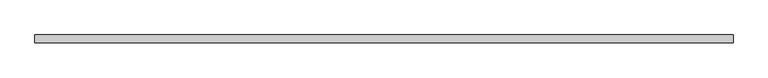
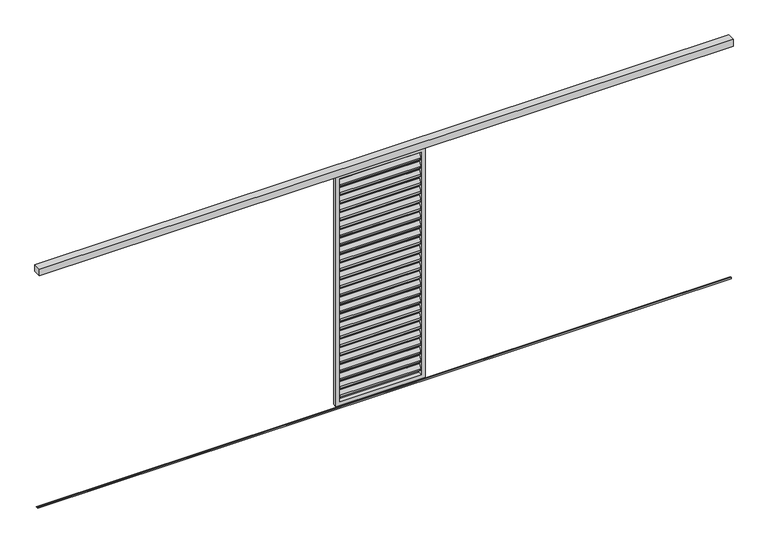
"""IFC4 building model written with IfcOpenShell, lengths in millimetres: proxy geometry, Renson_Amani_Loggia_Paro_Aluminium_Sliding : Renson_Amani_Loggia_Paro_Aluminium_Sliding."""

from ifc_helpers import new_model, si_unit, point, frame, frame_2d, origin, place, context, project, spatial, polyline, circle_curve, trimmed, segment, composite_curve, outline, extrude, source, transform, mapped, element, save


def generic_models_aa7866da(model_context):
    return source(origin(), model_context, "Body", "SweptSolid", [
        extrude(outline(polyline([(3550.0, 46.0), (3550.0, -34.0), (-3450.0, -34.0), (-3450.0, 46.0), (3550.0, 46.0)])), frame((0.0, 0.0, 2500.0), z_axis=(0.0, 0.0, 1.0), x_axis=(1.0, 0.0, 0.0)), (0.0, 0.0, 1.0), 70.0),
        extrude(outline(composite_curve([segment(trimmed(circle_curve(frame_2d((12.6675921, 2432.6587719)), 3.0), [point((10.1515804, 2434.292689))], [point((15.6675921, 2432.6587719))], False, "CARTESIAN"), True, "CONTINUOUS"), segment(polyline([(15.6675921, 2432.6587719), (15.6675921, 2414.2979873)]), True, "CONTINUOUS"), segment(trimmed(circle_curve(frame_2d((12.6675921, 2414.2979873)), 3.0), [point((15.6675921, 2414.2979873))], [point((15.1836038, 2412.6640702))], False, "CARTESIAN"), True, "CONTINUOUS"), segment(polyline([(15.1836038, 2412.6640702), (-8.8163962, 2375.707311)]), True, "CONTINUOUS"), segment(trimmed(circle_curve(frame_2d((-11.3324079, 2377.3412281)), 3.0), [point((-8.8163962, 2375.707311))], [point((-14.3324079, 2377.3412281))], False, "CARTESIAN"), True, "CONTINUOUS"), segment(polyline([(-14.3324079, 2377.3412281), (-14.3324079, 2396.5906532), (10.1515804, 2434.292689)]), True, "CONTINUOUS")], self_intersect=False)), frame((-410.0, 0.0, 0.0), z_axis=(1.0, 0.0, 0.0), x_axis=(0.0, 1.0, 0.0)), (0.0, 0.0, 1.0), 820.0),
        extrude(outline(composite_curve([segment(trimmed(circle_curve(frame_2d((12.6675921, 2342.6587719)), 3.0), [point((10.1515804, 2344.292689))], [point((15.6675921, 2342.6587719))], False, "CARTESIAN"), True, "CONTINUOUS"), segment(polyline([(15.6675921, 2342.6587719), (15.6675921, 2324.2979873)]), True, "CONTINUOUS"), segment(trimmed(circle_curve(frame_2d((12.6675921, 2324.2979873)), 3.0), [point((15.6675921, 2324.2979873))], [point((15.1836038, 2322.6640702))], False, "CARTESIAN"), True, "CONTINUOUS"), segment(polyline([(15.1836038, 2322.6640702), (-8.8163962, 2285.707311)]), True, "CONTINUOUS"), segment(trimmed(circle_curve(frame_2d((-11.3324079, 2287.3412281)), 3.0), [point((-8.8163962, 2285.707311))], [point((-14.3324079, 2287.3412281))], False, "CARTESIAN"), True, "CONTINUOUS"), segment(polyline([(-14.3324079, 2287.3412281), (-14.3324079, 2306.5906532), (10.1515804, 2344.292689)]), True, "CONTINUOUS")], self_intersect=False)), frame((-410.0, 0.0, 0.0), z_axis=(1.0, 0.0, 0.0), x_axis=(0.0, 1.0, 0.0)), (0.0, 0.0, 1.0), 820.0),
        extrude(outline(composite_curve([segment(trimmed(circle_curve(frame_2d((12.6675921, 2252.6587719)), 3.0), [point((10.1515804, 2254.292689))], [point((15.6675921, 2252.6587719))], False, "CARTESIAN"), True, "CONTINUOUS"), segment(polyline([(15.6675921, 2252.6587719), (15.6675921, 2234.2979873)]), True, "CONTINUOUS"), segment(trimmed(circle_curve(frame_2d((12.6675921, 2234.2979873)), 3.0), [point((15.6675921, 2234.2979873))], [point((15.1836038, 2232.6640702))], False, "CARTESIAN"), True, "CONTINUOUS"), segment(polyline([(15.1836038, 2232.6640702), (-8.8163962, 2195.707311)]), True, "CONTINUOUS"), segment(trimmed(circle_curve(frame_2d((-11.3324079, 2197.3412281)), 3.0), [point((-8.8163962, 2195.707311))], [point((-14.3324079, 2197.3412281))], False, "CARTESIAN"), True, "CONTINUOUS"), segment(polyline([(-14.3324079, 2197.3412281), (-14.3324079, 2216.5906532), (10.1515804, 2254.292689)]), True, "CONTINUOUS")], self_intersect=False)), frame((-410.0, 0.0, 0.0), z_axis=(1.0, 0.0, 0.0), x_axis=(0.0, 1.0, 0.0)), (0.0, 0.0, 1.0), 820.0),
        extrude(outline(composite_curve([segment(trimmed(circle_curve(frame_2d((12.6675921, 2162.6587719)), 3.0), [point((10.1515804, 2164.292689))], [point((15.6675921, 2162.6587719))], False, "CARTESIAN"), True, "CONTINUOUS"), segment(polyline([(15.6675921, 2162.6587719), (15.6675921, 2144.2979873)]), True, "CONTINUOUS"), segment(trimmed(circle_curve(frame_2d((12.6675921, 2144.2979873)), 3.0), [point((15.6675921, 2144.2979873))], [point((15.1836038, 2142.6640702))], False, "CARTESIAN"), True, "CONTINUOUS"), segment(polyline([(15.1836038, 2142.6640702), (-8.8163962, 2105.707311)]), True, "CONTINUOUS"), segment(trimmed(circle_curve(frame_2d((-11.3324079, 2107.3412281)), 3.0), [point((-8.8163962, 2105.707311))], [point((-14.3324079, 2107.3412281))], False, "CARTESIAN"), True, "CONTINUOUS"), segment(polyline([(-14.3324079, 2107.3412281), (-14.3324079, 2126.5906532), (10.1515804, 2164.292689)]), True, "CONTINUOUS")], self_intersect=False)), frame((-410.0, 0.0, 0.0), z_axis=(1.0, 0.0, 0.0), x_axis=(0.0, 1.0, 0.0)), (0.0, 0.0, 1.0), 820.0),
        extrude(outline(composite_curve([segment(trimmed(circle_curve(frame_2d((12.6675921, 2072.6587719)), 3.0), [point((10.1515804, 2074.292689))], [point((15.6675921, 2072.6587719))], False, "CARTESIAN"), True, "CONTINUOUS"), segment(polyline([(15.6675921, 2072.6587719), (15.6675921, 2054.2979873)]), True, "CONTINUOUS"), segment(trimmed(circle_curve(frame_2d((12.6675921, 2054.2979873)), 3.0), [point((15.6675921, 2054.2979873))], [point((15.1836038, 2052.6640702))], False, "CARTESIAN"), True, "CONTINUOUS"), segment(polyline([(15.1836038, 2052.6640702), (-8.8163962, 2015.707311)]), True, "CONTINUOUS"), segment(trimmed(circle_curve(frame_2d((-11.3324079, 2017.3412281)), 3.0), [point((-8.8163962, 2015.707311))], [point((-14.3324079, 2017.3412281))], False, "CARTESIAN"), True, "CONTINUOUS"), segment(polyline([(-14.3324079, 2017.3412281), (-14.3324079, 2036.5906532), (10.1515804, 2074.292689)]), True, "CONTINUOUS")], self_intersect=False)), frame((-410.0, 0.0, 0.0), z_axis=(1.0, 0.0, 0.0), x_axis=(0.0, 1.0, 0.0)), (0.0, 0.0, 1.0), 820.0),
        extrude(outline(composite_curve([segment(trimmed(circle_curve(frame_2d((12.6675921, 1982.6587719)), 3.0), [point((10.1515804, 1984.292689))], [point((15.6675921, 1982.6587719))], False, "CARTESIAN"), True, "CONTINUOUS"), segment(polyline([(15.6675921, 1982.6587719), (15.6675921, 1964.2979873)]), True, "CONTINUOUS"), segment(trimmed(circle_curve(frame_2d((12.6675921, 1964.2979873)), 3.0), [point((15.6675921, 1964.2979873))], [point((15.1836038, 1962.6640702))], False, "CARTESIAN"), True, "CONTINUOUS"), segment(polyline([(15.1836038, 1962.6640702), (-8.8163962, 1925.707311)]), True, "CONTINUOUS"), segment(trimmed(circle_curve(frame_2d((-11.3324079, 1927.3412281)), 3.0), [point((-8.8163962, 1925.707311))], [point((-14.3324079, 1927.3412281))], False, "CARTESIAN"), True, "CONTINUOUS"), segment(polyline([(-14.3324079, 1927.3412281), (-14.3324079, 1946.5906532), (10.1515804, 1984.292689)]), True, "CONTINUOUS")], self_intersect=False)), frame((-410.0, 0.0, 0.0), z_axis=(1.0, 0.0, 0.0), x_axis=(0.0, 1.0, 0.0)), (0.0, 0.0, 1.0), 820.0),
        extrude(outline(composite_curve([segment(trimmed(circle_curve(frame_2d((12.6675921, 1892.6587719)), 3.0), [point((10.1515804, 1894.292689))], [point((15.6675921, 1892.6587719))], False, "CARTESIAN"), True, "CONTINUOUS"), segment(polyline([(15.6675921, 1892.6587719), (15.6675921, 1874.2979873)]), True, "CONTINUOUS"), segment(trimmed(circle_curve(frame_2d((12.6675921, 1874.2979873)), 3.0), [point((15.6675921, 1874.2979873))], [point((15.1836038, 1872.6640702))], False, "CARTESIAN"), True, "CONTINUOUS"), segment(polyline([(15.1836038, 1872.6640702), (-8.8163962, 1835.707311)]), True, "CONTINUOUS"), segment(trimmed(circle_curve(frame_2d((-11.3324079, 1837.3412281)), 3.0), [point((-8.8163962, 1835.707311))], [point((-14.3324079, 1837.3412281))], False, "CARTESIAN"), True, "CONTINUOUS"), segment(polyline([(-14.3324079, 1837.3412281), (-14.3324079, 1856.5906532), (10.1515804, 1894.292689)]), True, "CONTINUOUS")], self_intersect=False)), frame((-410.0, 0.0, 0.0), z_axis=(1.0, 0.0, 0.0), x_axis=(0.0, 1.0, 0.0)), (0.0, 0.0, 1.0), 820.0),
        extrude(outline(composite_curve([segment(trimmed(circle_curve(frame_2d((12.6675921, 1802.6587719)), 3.0), [point((10.1515804, 1804.292689))], [point((15.6675921, 1802.6587719))], False, "CARTESIAN"), True, "CONTINUOUS"), segment(polyline([(15.6675921, 1802.6587719), (15.6675921, 1784.2979873)]), True, "CONTINUOUS"), segment(trimmed(circle_curve(frame_2d((12.6675921, 1784.2979873)), 3.0), [point((15.6675921, 1784.2979873))], [point((15.1836038, 1782.6640702))], False, "CARTESIAN"), True, "CONTINUOUS"), segment(polyline([(15.1836038, 1782.6640702), (-8.8163962, 1745.707311)]), True, "CONTINUOUS"), segment(trimmed(circle_curve(frame_2d((-11.3324079, 1747.3412281)), 3.0), [point((-8.8163962, 1745.707311))], [point((-14.3324079, 1747.3412281))], False, "CARTESIAN"), True, "CONTINUOUS"), segment(polyline([(-14.3324079, 1747.3412281), (-14.3324079, 1766.5906532), (10.1515804, 1804.292689)]), True, "CONTINUOUS")], self_intersect=False)), frame((-410.0, 0.0, 0.0), z_axis=(1.0, 0.0, 0.0), x_axis=(0.0, 1.0, 0.0)), (0.0, 0.0, 1.0), 820.0),
        extrude(outline(composite_curve([segment(trimmed(circle_curve(frame_2d((12.6675921, 1712.6587719)), 3.0), [point((10.1515804, 1714.292689))], [point((15.6675921, 1712.6587719))], False, "CARTESIAN"), True, "CONTINUOUS"), segment(polyline([(15.6675921, 1712.6587719), (15.6675921, 1694.2979873)]), True, "CONTINUOUS"), segment(trimmed(circle_curve(frame_2d((12.6675921, 1694.2979873)), 3.0), [point((15.6675921, 1694.2979873))], [point((15.1836038, 1692.6640702))], False, "CARTESIAN"), True, "CONTINUOUS"), segment(polyline([(15.1836038, 1692.6640702), (-8.8163962, 1655.707311)]), True, "CONTINUOUS"), segment(trimmed(circle_curve(frame_2d((-11.3324079, 1657.3412281)), 3.0), [point((-8.8163962, 1655.707311))], [point((-14.3324079, 1657.3412281))], False, "CARTESIAN"), True, "CONTINUOUS"), segment(polyline([(-14.3324079, 1657.3412281), (-14.3324079, 1676.5906532), (10.1515804, 1714.292689)]), True, "CONTINUOUS")], self_intersect=False)), frame((-410.0, 0.0, 0.0), z_axis=(1.0, 0.0, 0.0), x_axis=(0.0, 1.0, 0.0)), (0.0, 0.0, 1.0), 820.0),
        extrude(outline(composite_curve([segment(trimmed(circle_curve(frame_2d((12.6675921, 1622.6587719)), 3.0), [point((10.1515804, 1624.292689))], [point((15.6675921, 1622.6587719))], False, "CARTESIAN"), True, "CONTINUOUS"), segment(polyline([(15.6675921, 1622.6587719), (15.6675921, 1604.2979873)]), True, "CONTINUOUS"), segment(trimmed(circle_curve(frame_2d((12.6675921, 1604.2979873)), 3.0), [point((15.6675921, 1604.2979873))], [point((15.1836038, 1602.6640702))], False, "CARTESIAN"), True, "CONTINUOUS"), segment(polyline([(15.1836038, 1602.6640702), (-8.8163962, 1565.707311)]), True, "CONTINUOUS"), segment(trimmed(circle_curve(frame_2d((-11.3324079, 1567.3412281)), 3.0), [point((-8.8163962, 1565.707311))], [point((-14.3324079, 1567.3412281))], False, "CARTESIAN"), True, "CONTINUOUS"), segment(polyline([(-14.3324079, 1567.3412281), (-14.3324079, 1586.5906532), (10.1515804, 1624.292689)]), True, "CONTINUOUS")], self_intersect=False)), frame((-410.0, 0.0, 0.0), z_axis=(1.0, 0.0, 0.0), x_axis=(0.0, 1.0, 0.0)), (0.0, 0.0, 1.0), 820.0),
        extrude(outline(composite_curve([segment(trimmed(circle_curve(frame_2d((12.6675921, 1532.6587719)), 3.0), [point((10.1515804, 1534.292689))], [point((15.6675921, 1532.6587719))], False, "CARTESIAN"), True, "CONTINUOUS"), segment(polyline([(15.6675921, 1532.6587719), (15.6675921, 1514.2979873)]), True, "CONTINUOUS"), segment(trimmed(circle_curve(frame_2d((12.6675921, 1514.2979873)), 3.0), [point((15.6675921, 1514.2979873))], [point((15.1836038, 1512.6640702))], False, "CARTESIAN"), True, "CONTINUOUS"), segment(polyline([(15.1836038, 1512.6640702), (-8.8163962, 1475.707311)]), True, "CONTINUOUS"), segment(trimmed(circle_curve(frame_2d((-11.3324079, 1477.3412281)), 3.0), [point((-8.8163962, 1475.707311))], [point((-14.3324079, 1477.3412281))], False, "CARTESIAN"), True, "CONTINUOUS"), segment(polyline([(-14.3324079, 1477.3412281), (-14.3324079, 1496.5906532), (10.1515804, 1534.292689)]), True, "CONTINUOUS")], self_intersect=False)), frame((-410.0, 0.0, 0.0), z_axis=(1.0, 0.0, 0.0), x_axis=(0.0, 1.0, 0.0)), (0.0, 0.0, 1.0), 820.0),
        extrude(outline(composite_curve([segment(trimmed(circle_curve(frame_2d((12.6675921, 1442.6587719)), 3.0), [point((10.1515804, 1444.292689))], [point((15.6675921, 1442.6587719))], False, "CARTESIAN"), True, "CONTINUOUS"), segment(polyline([(15.6675921, 1442.6587719), (15.6675921, 1424.2979873)]), True, "CONTINUOUS"), segment(trimmed(circle_curve(frame_2d((12.6675921, 1424.2979873)), 3.0), [point((15.6675921, 1424.2979873))], [point((15.1836038, 1422.6640702))], False, "CARTESIAN"), True, "CONTINUOUS"), segment(polyline([(15.1836038, 1422.6640702), (-8.8163962, 1385.707311)]), True, "CONTINUOUS"), segment(trimmed(circle_curve(frame_2d((-11.3324079, 1387.3412281)), 3.0), [point((-8.8163962, 1385.707311))], [point((-14.3324079, 1387.3412281))], False, "CARTESIAN"), True, "CONTINUOUS"), segment(polyline([(-14.3324079, 1387.3412281), (-14.3324079, 1406.5906532), (10.1515804, 1444.292689)]), True, "CONTINUOUS")], self_intersect=False)), frame((-410.0, 0.0, 0.0), z_axis=(1.0, 0.0, 0.0), x_axis=(0.0, 1.0, 0.0)), (0.0, 0.0, 1.0), 820.0),
        extrude(outline(composite_curve([segment(trimmed(circle_curve(frame_2d((12.6675921, 1352.6587719)), 3.0), [point((10.1515804, 1354.292689))], [point((15.6675921, 1352.6587719))], False, "CARTESIAN"), True, "CONTINUOUS"), segment(polyline([(15.6675921, 1352.6587719), (15.6675921, 1334.2979873)]), True, "CONTINUOUS"), segment(trimmed(circle_curve(frame_2d((12.6675921, 1334.2979873)), 3.0), [point((15.6675921, 1334.2979873))], [point((15.1836038, 1332.6640702))], False, "CARTESIAN"), True, "CONTINUOUS"), segment(polyline([(15.1836038, 1332.6640702), (-8.8163962, 1295.707311)]), True, "CONTINUOUS"), segment(trimmed(circle_curve(frame_2d((-11.3324079, 1297.3412281)), 3.0), [point((-8.8163962, 1295.707311))], [point((-14.3324079, 1297.3412281))], False, "CARTESIAN"), True, "CONTINUOUS"), segment(polyline([(-14.3324079, 1297.3412281), (-14.3324079, 1316.5906532), (10.1515804, 1354.292689)]), True, "CONTINUOUS")], self_intersect=False)), frame((-410.0, 0.0, 0.0), z_axis=(1.0, 0.0, 0.0), x_axis=(0.0, 1.0, 0.0)), (0.0, 0.0, 1.0), 820.0),
        extrude(outline(composite_curve([segment(trimmed(circle_curve(frame_2d((12.6675921, 1262.6587719)), 3.0), [point((10.1515804, 1264.292689))], [point((15.6675921, 1262.6587719))], False, "CARTESIAN"), True, "CONTINUOUS"), segment(polyline([(15.6675921, 1262.6587719), (15.6675921, 1244.2979873)]), True, "CONTINUOUS"), segment(trimmed(circle_curve(frame_2d((12.6675921, 1244.2979873)), 3.0), [point((15.6675921, 1244.2979873))], [point((15.1836038, 1242.6640702))], False, "CARTESIAN"), True, "CONTINUOUS"), segment(polyline([(15.1836038, 1242.6640702), (-8.8163962, 1205.707311)]), True, "CONTINUOUS"), segment(trimmed(circle_curve(frame_2d((-11.3324079, 1207.3412281)), 3.0), [point((-8.8163962, 1205.707311))], [point((-14.3324079, 1207.3412281))], False, "CARTESIAN"), True, "CONTINUOUS"), segment(polyline([(-14.3324079, 1207.3412281), (-14.3324079, 1226.5906532), (10.1515804, 1264.292689)]), True, "CONTINUOUS")], self_intersect=False)), frame((-410.0, 0.0, 0.0), z_axis=(1.0, 0.0, 0.0), x_axis=(0.0, 1.0, 0.0)), (0.0, 0.0, 1.0), 820.0),
        extrude(outline(composite_curve([segment(trimmed(circle_curve(frame_2d((12.6675921, 1172.6587719)), 3.0), [point((10.1515804, 1174.292689))], [point((15.6675921, 1172.6587719))], False, "CARTESIAN"), True, "CONTINUOUS"), segment(polyline([(15.6675921, 1172.6587719), (15.6675921, 1154.2979873)]), True, "CONTINUOUS"), segment(trimmed(circle_curve(frame_2d((12.6675921, 1154.2979873)), 3.0), [point((15.6675921, 1154.2979873))], [point((15.1836038, 1152.6640702))], False, "CARTESIAN"), True, "CONTINUOUS"), segment(polyline([(15.1836038, 1152.6640702), (-8.8163962, 1115.707311)]), True, "CONTINUOUS"), segment(trimmed(circle_curve(frame_2d((-11.3324079, 1117.3412281)), 3.0), [point((-8.8163962, 1115.707311))], [point((-14.3324079, 1117.3412281))], False, "CARTESIAN"), True, "CONTINUOUS"), segment(polyline([(-14.3324079, 1117.3412281), (-14.3324079, 1136.5906532), (10.1515804, 1174.292689)]), True, "CONTINUOUS")], self_intersect=False)), frame((-410.0, 0.0, 0.0), z_axis=(1.0, 0.0, 0.0), x_axis=(0.0, 1.0, 0.0)), (0.0, 0.0, 1.0), 820.0),
        extrude(outline(composite_curve([segment(trimmed(circle_curve(frame_2d((12.6675921, 1082.6587719)), 3.0), [point((10.1515804, 1084.292689))], [point((15.6675921, 1082.6587719))], False, "CARTESIAN"), True, "CONTINUOUS"), segment(polyline([(15.6675921, 1082.6587719), (15.6675921, 1064.2979873)]), True, "CONTINUOUS"), segment(trimmed(circle_curve(frame_2d((12.6675921, 1064.2979873)), 3.0), [point((15.6675921, 1064.2979873))], [point((15.1836038, 1062.6640702))], False, "CARTESIAN"), True, "CONTINUOUS"), segment(polyline([(15.1836038, 1062.6640702), (-8.8163962, 1025.707311)]), True, "CONTINUOUS"), segment(trimmed(circle_curve(frame_2d((-11.3324079, 1027.3412281)), 3.0), [point((-8.8163962, 1025.707311))], [point((-14.3324079, 1027.3412281))], False, "CARTESIAN"), True, "CONTINUOUS"), segment(polyline([(-14.3324079, 1027.3412281), (-14.3324079, 1046.5906532), (10.1515804, 1084.292689)]), True, "CONTINUOUS")], self_intersect=False)), frame((-410.0, 0.0, 0.0), z_axis=(1.0, 0.0, 0.0), x_axis=(0.0, 1.0, 0.0)), (0.0, 0.0, 1.0), 820.0),
        extrude(outline(composite_curve([segment(trimmed(circle_curve(frame_2d((12.6675921, 992.6587719)), 3.0), [point((10.1515804, 994.292689))], [point((15.6675921, 992.6587719))], False, "CARTESIAN"), True, "CONTINUOUS"), segment(polyline([(15.6675921, 992.6587719), (15.6675921, 974.2979873)]), True, "CONTINUOUS"), segment(trimmed(circle_curve(frame_2d((12.6675921, 974.2979873)), 3.0), [point((15.6675921, 974.2979873))], [point((15.1836038, 972.6640702))], False, "CARTESIAN"), True, "CONTINUOUS"), segment(polyline([(15.1836038, 972.6640702), (-8.8163962, 935.707311)]), True, "CONTINUOUS"), segment(trimmed(circle_curve(frame_2d((-11.3324079, 937.3412281)), 3.0), [point((-8.8163962, 935.707311))], [point((-14.3324079, 937.3412281))], False, "CARTESIAN"), True, "CONTINUOUS"), segment(polyline([(-14.3324079, 937.3412281), (-14.3324079, 956.5906532), (10.1515804, 994.292689)]), True, "CONTINUOUS")], self_intersect=False)), frame((-410.0, 0.0, 0.0), z_axis=(1.0, 0.0, 0.0), x_axis=(0.0, 1.0, 0.0)), (0.0, 0.0, 1.0), 820.0),
        extrude(outline(composite_curve([segment(trimmed(circle_curve(frame_2d((12.6675921, 902.6587719)), 3.0), [point((10.1515804, 904.292689))], [point((15.6675921, 902.6587719))], False, "CARTESIAN"), True, "CONTINUOUS"), segment(polyline([(15.6675921, 902.6587719), (15.6675921, 884.2979873)]), True, "CONTINUOUS"), segment(trimmed(circle_curve(frame_2d((12.6675921, 884.2979873)), 3.0), [point((15.6675921, 884.2979873))], [point((15.1836038, 882.6640702))], False, "CARTESIAN"), True, "CONTINUOUS"), segment(polyline([(15.1836038, 882.6640702), (-8.8163962, 845.707311)]), True, "CONTINUOUS"), segment(trimmed(circle_curve(frame_2d((-11.3324079, 847.3412281)), 3.0), [point((-8.8163962, 845.707311))], [point((-14.3324079, 847.3412281))], False, "CARTESIAN"), True, "CONTINUOUS"), segment(polyline([(-14.3324079, 847.3412281), (-14.3324079, 866.5906532), (10.1515804, 904.292689)]), True, "CONTINUOUS")], self_intersect=False)), frame((-410.0, 0.0, 0.0), z_axis=(1.0, 0.0, 0.0), x_axis=(0.0, 1.0, 0.0)), (0.0, 0.0, 1.0), 820.0),
        extrude(outline(composite_curve([segment(trimmed(circle_curve(frame_2d((12.6675921, 812.6587719)), 3.0), [point((10.1515804, 814.292689))], [point((15.6675921, 812.6587719))], False, "CARTESIAN"), True, "CONTINUOUS"), segment(polyline([(15.6675921, 812.6587719), (15.6675921, 794.2979873)]), True, "CONTINUOUS"), segment(trimmed(circle_curve(frame_2d((12.6675921, 794.2979873)), 3.0), [point((15.6675921, 794.2979873))], [point((15.1836038, 792.6640702))], False, "CARTESIAN"), True, "CONTINUOUS"), segment(polyline([(15.1836038, 792.6640702), (-8.8163962, 755.707311)]), True, "CONTINUOUS"), segment(trimmed(circle_curve(frame_2d((-11.3324079, 757.3412281)), 3.0), [point((-8.8163962, 755.707311))], [point((-14.3324079, 757.3412281))], False, "CARTESIAN"), True, "CONTINUOUS"), segment(polyline([(-14.3324079, 757.3412281), (-14.3324079, 776.5906532), (10.1515804, 814.292689)]), True, "CONTINUOUS")], self_intersect=False)), frame((-410.0, 0.0, 0.0), z_axis=(1.0, 0.0, 0.0), x_axis=(0.0, 1.0, 0.0)), (0.0, 0.0, 1.0), 820.0),
        extrude(outline(composite_curve([segment(trimmed(circle_curve(frame_2d((12.6675921, 722.6587719)), 3.0), [point((10.1515804, 724.292689))], [point((15.6675921, 722.6587719))], False, "CARTESIAN"), True, "CONTINUOUS"), segment(polyline([(15.6675921, 722.6587719), (15.6675921, 704.2979873)]), True, "CONTINUOUS"), segment(trimmed(circle_curve(frame_2d((12.6675921, 704.2979873)), 3.0), [point((15.6675921, 704.2979873))], [point((15.1836038, 702.6640702))], False, "CARTESIAN"), True, "CONTINUOUS"), segment(polyline([(15.1836038, 702.6640702), (-8.8163962, 665.707311)]), True, "CONTINUOUS"), segment(trimmed(circle_curve(frame_2d((-11.3324079, 667.3412281)), 3.0), [point((-8.8163962, 665.707311))], [point((-14.3324079, 667.3412281))], False, "CARTESIAN"), True, "CONTINUOUS"), segment(polyline([(-14.3324079, 667.3412281), (-14.3324079, 686.5906532), (10.1515804, 724.292689)]), True, "CONTINUOUS")], self_intersect=False)), frame((-410.0, 0.0, 0.0), z_axis=(1.0, 0.0, 0.0), x_axis=(0.0, 1.0, 0.0)), (0.0, 0.0, 1.0), 820.0),
        extrude(outline(composite_curve([segment(trimmed(circle_curve(frame_2d((12.6675921, 632.6587719)), 3.0), [point((10.1515804, 634.292689))], [point((15.6675921, 632.6587719))], False, "CARTESIAN"), True, "CONTINUOUS"), segment(polyline([(15.6675921, 632.6587719), (15.6675921, 614.2979873)]), True, "CONTINUOUS"), segment(trimmed(circle_curve(frame_2d((12.6675921, 614.2979873)), 3.0), [point((15.6675921, 614.2979873))], [point((15.1836038, 612.6640702))], False, "CARTESIAN"), True, "CONTINUOUS"), segment(polyline([(15.1836038, 612.6640702), (-8.8163962, 575.707311)]), True, "CONTINUOUS"), segment(trimmed(circle_curve(frame_2d((-11.3324079, 577.3412281)), 3.0), [point((-8.8163962, 575.707311))], [point((-14.3324079, 577.3412281))], False, "CARTESIAN"), True, "CONTINUOUS"), segment(polyline([(-14.3324079, 577.3412281), (-14.3324079, 596.5906532), (10.1515804, 634.292689)]), True, "CONTINUOUS")], self_intersect=False)), frame((-410.0, 0.0, 0.0), z_axis=(1.0, 0.0, 0.0), x_axis=(0.0, 1.0, 0.0)), (0.0, 0.0, 1.0), 820.0),
        extrude(outline(composite_curve([segment(trimmed(circle_curve(frame_2d((12.6675921, 542.6587719)), 3.0), [point((10.1515804, 544.292689))], [point((15.6675921, 542.6587719))], False, "CARTESIAN"), True, "CONTINUOUS"), segment(polyline([(15.6675921, 542.6587719), (15.6675921, 524.2979873)]), True, "CONTINUOUS"), segment(trimmed(circle_curve(frame_2d((12.6675921, 524.2979873)), 3.0), [point((15.6675921, 524.2979873))], [point((15.1836038, 522.6640702))], False, "CARTESIAN"), True, "CONTINUOUS"), segment(polyline([(15.1836038, 522.6640702), (-8.8163962, 485.707311)]), True, "CONTINUOUS"), segment(trimmed(circle_curve(frame_2d((-11.3324079, 487.3412281)), 3.0), [point((-8.8163962, 485.707311))], [point((-14.3324079, 487.3412281))], False, "CARTESIAN"), True, "CONTINUOUS"), segment(polyline([(-14.3324079, 487.3412281), (-14.3324079, 506.5906532), (10.1515804, 544.292689)]), True, "CONTINUOUS")], self_intersect=False)), frame((-410.0, 0.0, 0.0), z_axis=(1.0, 0.0, 0.0), x_axis=(0.0, 1.0, 0.0)), (0.0, 0.0, 1.0), 820.0),
        extrude(outline(composite_curve([segment(trimmed(circle_curve(frame_2d((12.6675921, 452.6587719)), 3.0), [point((10.1515804, 454.292689))], [point((15.6675921, 452.6587719))], False, "CARTESIAN"), True, "CONTINUOUS"), segment(polyline([(15.6675921, 452.6587719), (15.6675921, 434.2979873)]), True, "CONTINUOUS"), segment(trimmed(circle_curve(frame_2d((12.6675921, 434.2979873)), 3.0), [point((15.6675921, 434.2979873))], [point((15.1836038, 432.6640702))], False, "CARTESIAN"), True, "CONTINUOUS"), segment(polyline([(15.1836038, 432.6640702), (-8.8163962, 395.707311)]), True, "CONTINUOUS"), segment(trimmed(circle_curve(frame_2d((-11.3324079, 397.3412281)), 3.0), [point((-8.8163962, 395.707311))], [point((-14.3324079, 397.3412281))], False, "CARTESIAN"), True, "CONTINUOUS"), segment(polyline([(-14.3324079, 397.3412281), (-14.3324079, 416.5906532), (10.1515804, 454.292689)]), True, "CONTINUOUS")], self_intersect=False)), frame((-410.0, 0.0, 0.0), z_axis=(1.0, 0.0, 0.0), x_axis=(0.0, 1.0, 0.0)), (0.0, 0.0, 1.0), 820.0),
        extrude(outline(composite_curve([segment(trimmed(circle_curve(frame_2d((12.6675921, 362.6587719)), 3.0), [point((10.1515804, 364.292689))], [point((15.6675921, 362.6587719))], False, "CARTESIAN"), True, "CONTINUOUS"), segment(polyline([(15.6675921, 362.6587719), (15.6675921, 344.2979873)]), True, "CONTINUOUS"), segment(trimmed(circle_curve(frame_2d((12.6675921, 344.2979873)), 3.0), [point((15.6675921, 344.2979873))], [point((15.1836038, 342.6640702))], False, "CARTESIAN"), True, "CONTINUOUS"), segment(polyline([(15.1836038, 342.6640702), (-8.8163962, 305.707311)]), True, "CONTINUOUS"), segment(trimmed(circle_curve(frame_2d((-11.3324079, 307.3412281)), 3.0), [point((-8.8163962, 305.707311))], [point((-14.3324079, 307.3412281))], False, "CARTESIAN"), True, "CONTINUOUS"), segment(polyline([(-14.3324079, 307.3412281), (-14.3324079, 326.5906532), (10.1515804, 364.292689)]), True, "CONTINUOUS")], self_intersect=False)), frame((-410.0, 0.0, 0.0), z_axis=(1.0, 0.0, 0.0), x_axis=(0.0, 1.0, 0.0)), (0.0, 0.0, 1.0), 820.0),
        extrude(outline(composite_curve([segment(trimmed(circle_curve(frame_2d((12.6675921, 272.6587719)), 3.0), [point((10.1515804, 274.292689))], [point((15.6675921, 272.6587719))], False, "CARTESIAN"), True, "CONTINUOUS"), segment(polyline([(15.6675921, 272.6587719), (15.6675921, 254.2979873)]), True, "CONTINUOUS"), segment(trimmed(circle_curve(frame_2d((12.6675921, 254.2979873)), 3.0), [point((15.6675921, 254.2979873))], [point((15.1836038, 252.6640702))], False, "CARTESIAN"), True, "CONTINUOUS"), segment(polyline([(15.1836038, 252.6640702), (-8.8163962, 215.707311)]), True, "CONTINUOUS"), segment(trimmed(circle_curve(frame_2d((-11.3324079, 217.3412281)), 3.0), [point((-8.8163962, 215.707311))], [point((-14.3324079, 217.3412281))], False, "CARTESIAN"), True, "CONTINUOUS"), segment(polyline([(-14.3324079, 217.3412281), (-14.3324079, 236.5906532), (10.1515804, 274.292689)]), True, "CONTINUOUS")], self_intersect=False)), frame((-410.0, 0.0, 0.0), z_axis=(1.0, 0.0, 0.0), x_axis=(0.0, 1.0, 0.0)), (0.0, 0.0, 1.0), 820.0),
        extrude(outline(composite_curve([segment(trimmed(circle_curve(frame_2d((12.6675921, 182.6587719)), 3.0), [point((10.1515804, 184.292689))], [point((15.6675921, 182.6587719))], False, "CARTESIAN"), True, "CONTINUOUS"), segment(polyline([(15.6675921, 182.6587719), (15.6675921, 164.2979873)]), True, "CONTINUOUS"), segment(trimmed(circle_curve(frame_2d((12.6675921, 164.2979873)), 3.0), [point((15.6675921, 164.2979873))], [point((15.1836038, 162.6640702))], False, "CARTESIAN"), True, "CONTINUOUS"), segment(polyline([(15.1836038, 162.6640702), (-8.8163962, 125.707311)]), True, "CONTINUOUS"), segment(trimmed(circle_curve(frame_2d((-11.3324079, 127.3412281)), 3.0), [point((-8.8163962, 125.707311))], [point((-14.3324079, 127.3412281))], False, "CARTESIAN"), True, "CONTINUOUS"), segment(polyline([(-14.3324079, 127.3412281), (-14.3324079, 146.5906532), (10.1515804, 184.292689)]), True, "CONTINUOUS")], self_intersect=False)), frame((-410.0, 0.0, 0.0), z_axis=(1.0, 0.0, 0.0), x_axis=(0.0, 1.0, 0.0)), (0.0, 0.0, 1.0), 820.0),
        extrude(outline(polyline([(-6.0, 15.0), (-3.0, 15.0), (-3.0, 3.0), (20.0, 3.0), (20.0, 0.0), (-6.0, 0.0), (-6.0, 15.0)])), frame((-3450.0, 0.0, 0.0), z_axis=(1.0, 0.0, 0.0), x_axis=(0.0, 1.0, 0.0)), (0.0, 0.0, 1.0), 7000.0),
        extrude(outline(polyline([(2500.0, -450.0), (45.0, -450.0), (45.0, 450.0), (2500.0, 450.0), (2500.0, -450.0)]), holes=[polyline([(2460.0, 410.0), (85.0, 410.0), (85.0, -410.0), (2460.0, -410.0), (2460.0, 410.0)])]), frame((0.0, -20.0, 0.0), z_axis=(0.0, 1.0, 0.0), x_axis=(0.0, 0.0, 1.0)), (0.0, 0.0, 1.0), 40.0),
    ])


if __name__ == "__main__":
    model = new_model("IFC4")
    model_context = context("Model", 3, world=origin())
    ifc_project = project(units=[si_unit("LENGTHUNIT", "METRE", prefix="MILLI")], contexts=[model_context])
    site = spatial("IfcSite", under=ifc_project)
    building = spatial("IfcBuilding", under=site)
    placement = place(None, origin())
    generic_models_shape = generic_models_aa7866da(model_context)
    element("IfcBuildingElementProxy", 1, Name="Renson_Amani_Loggia_Paro_Aluminium_Sliding : Renson_Amani_Loggia_Paro_Aluminium_Sliding", ObjectType="Renson_Amani_Loggia_Paro_Aluminium_Sliding : Renson_Amani_Loggia_Paro_Aluminium_Sliding", at=placement, inside=building, context=model_context, shape_type="MappedRepresentation", body=[
        mapped(generic_models_shape, transform((0.0, 0.0, 0.0), x_axis=(1.0, 0.0, 0.0), y_axis=(0.0, 1.0, 0.0), z_axis=(0.0, 0.0, 1.0))),
    ])
    save(model, "model.ifc")
